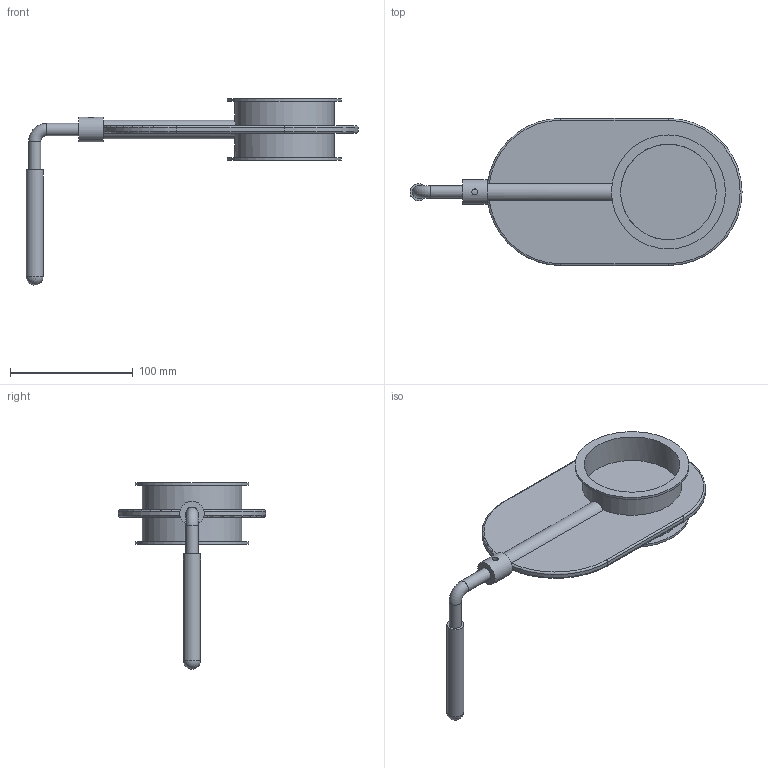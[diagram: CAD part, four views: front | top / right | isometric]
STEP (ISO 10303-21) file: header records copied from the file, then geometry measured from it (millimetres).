
FILE_DESCRIPTION((''),'2;1');
FILE_NAME('U:\Wolfgang\Marcel-3D\fertig\Kapitel 9\0811077.stp','2011-10-11T12:58:26',('iwienholt'),(''),'Autodesk Inventor 2010','Autodesk Inventor 2010','');
FILE_SCHEMA(('AUTOMOTIVE_DESIGN { 1 0 10303 214 1 1 1 1 }'));
Length unit declared in the file: millimetre
Products named in the file (3): 0811077; 0811077-1; Hebel-Ronde DN80
Assembly tree (2 placements, depth 2):
  0811077
    0811077-1
    Hebel-Ronde DN80
Bounding box: 270.88 x 120 x 151.95 mm (x, y, z)
Volume: 143856.1 mm3; surface area: 132373.9 mm2
Topology: 3 solids, 3 shells, 55 faces, 135 edges, 86 vertices
Faces by surface type: cylinder 25, plane 22, torus 7, sphere 1
Full cylindrical faces by diameter (mm): 4.917 x1, 10 x2, 10.5 x1, 14 x1, 15 x1, 20 x1, 78 x2, 81 x2, 93 x2
Entity records: 1730 total; most frequent: CARTESIAN_POINT 447, DIRECTION 266, ORIENTED_EDGE 216, AXIS2_PLACEMENT_3D 114, EDGE_CURVE 108, EDGE_LOOP 78, VERTEX_POINT 76, FACE_OUTER_BOUND 55
